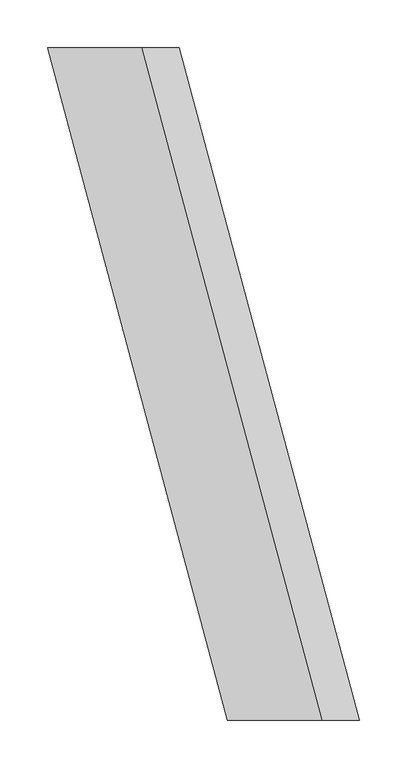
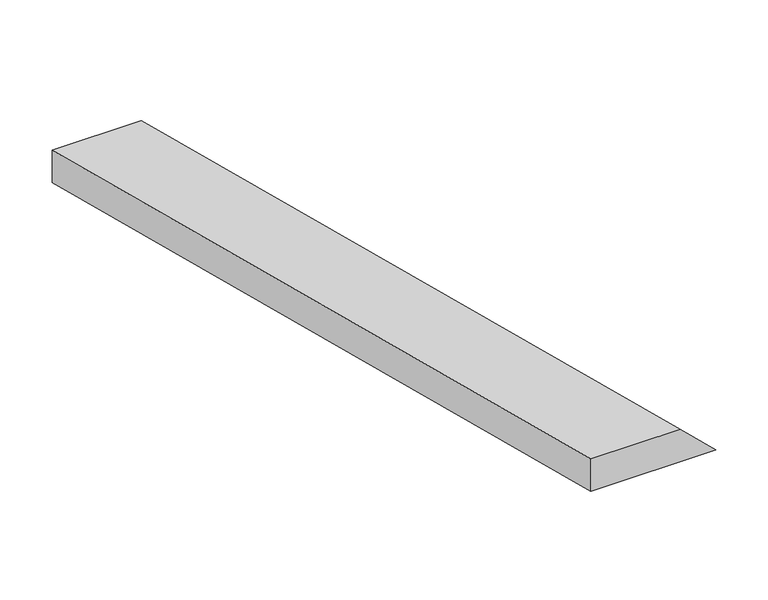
"""IFC4 building model written with IfcOpenShell, lengths in millimetres: proxy geometry, FOUNDATION^TABLE 5_60x180 RT END BASE-RIGHT END."""

import ifcopenshell
import ifcopenshell.guid

model = None  # the IFC model being written
_history = None  # IfcOwnerHistory: only IFC2X3 demands one
_inside = {}  # id of a spatial element -> (the spatial element, [elements in it])
_under = {}  # id of a project, library or spatial element -> (it, [spatial elements below it])
_declared = {}  # id of a project -> (the project, [libraries it declares])
_typed = {}  # id of a type object -> (the type object, [elements of that type])
_made_of = {}  # id of a material, layer set ... -> (it, [elements and type objects made of it])


def new_model(schema):
    """Start an empty IFC model of exactly this schema.

    Asked for "IFC4X3", IfcOpenShell would pick the latest addendum, in which some entities
    have other attributes; the version numbers below select the first issue.
    IFC2X3 requires an IfcOwnerHistory on every rooted entity: one is made here for all.
    """
    global model, _history
    if schema == "IFC4X3":
        model = ifcopenshell.file(schema_version=(4, 3, 0, 0))
    else:
        model = ifcopenshell.file(schema=schema)
    _inside.clear()
    _under.clear()
    _declared.clear()
    _typed.clear()
    _made_of.clear()
    _history = None
    if model.schema == "IFC2X3":
        org = make("IfcOrganization", Name="unknown")
        user = make(
            "IfcPersonAndOrganization",
            ThePerson=make("IfcPerson", FamilyName="unknown"),
            TheOrganization=org,
        )
        app = make(
            "IfcApplication",
            ApplicationDeveloper=org,
            Version="unknown",
            ApplicationFullName="unknown",
            ApplicationIdentifier="unknown",
        )
        _history = make(
            "IfcOwnerHistory",
            OwningUser=user,
            OwningApplication=app,
            ChangeAction="ADDED",
            CreationDate=0,
        )
    return model


def make(cls, **values):
    """One entity of the class cls with the attributes given. An attribute that is None is left unset."""
    return model.create_entity(
        cls, **{name: value for name, value in values.items() if value is not None}
    )


def rooted(cls, **values):
    """An entity with a GlobalId (a new one), such as an element, a storey or a relation."""
    return make(cls, GlobalId=ifcopenshell.guid.new(), OwnerHistory=_history, **values)


def si_unit(unit_type, name, prefix=None):
    """IfcSIUnit, for example si_unit("LENGTHUNIT", "METRE", prefix="MILLI")."""
    return make("IfcSIUnit", UnitType=unit_type, Prefix=prefix, Name=name)


def assignment(units):
    """IfcUnitAssignment: the units of a project."""
    return None if units is None else make("IfcUnitAssignment", Units=units)


def point(xyz):
    """IfcCartesianPoint."""
    return None if xyz is None else make("IfcCartesianPoint", Coordinates=xyz)


def direction(xyz):
    """IfcDirection."""
    return None if xyz is None else make("IfcDirection", DirectionRatios=xyz)


def frame(location, z_axis=None, x_axis=None):
    """IfcAxis2Placement3D, a coordinate frame: its origin and axes. An axis left out is left unset."""
    return make(
        "IfcAxis2Placement3D",
        Location=point(location),
        Axis=direction(z_axis),
        RefDirection=direction(x_axis),
    )


def origin():
    """The frame at (0, 0, 0) with its axes left unset."""
    return frame((0.0, 0.0, 0.0))


def place(relative_to, where):
    """IfcLocalPlacement: puts the frame where relative to a parent placement (None: the world)."""
    return make(
        "IfcLocalPlacement", PlacementRelTo=relative_to, RelativePlacement=where
    )


def context(
    kind, dimensions, precision=None, world=None, true_north=None, identifier=None
):
    """IfcGeometricRepresentationContext, for example the 3D "Model" context."""
    return make(
        "IfcGeometricRepresentationContext",
        ContextIdentifier=identifier,
        ContextType=kind,
        CoordinateSpaceDimension=dimensions,
        Precision=precision,
        WorldCoordinateSystem=world,
        TrueNorth=true_north,
    )


def project(units=None, contexts=None):
    """IfcProject with its units and contexts."""
    return rooted(
        "IfcProject",
        Name="project",
        RepresentationContexts=contexts,
        UnitsInContext=assignment(units),
    )


def spatial(cls, under=None, at=None, **own):
    """A site, building, storey or space (cls), placed at a placement, below another one or the project."""
    s = rooted(cls, ObjectPlacement=at, **own)
    if under is not None:
        _under.setdefault(under.id(), (under, []))[1].append(s)
    return s


def faces_of(points, faces, orient=None, outer=None):
    """IfcFace entities. A face is a list of loops; a loop is a list of indices into points, from 0.

    orient and outer hold one flag for each loop. By default every Orientation is true, the
    first loop of a face is its IfcFaceOuterBound and the others are IfcFaceBound.
    """
    made = []
    for i, loops in enumerate(faces):
        bounds = []
        for j, loop in enumerate(loops):
            is_outer = j == 0 if outer is None else outer[i][j]
            bounds.append(
                make(
                    "IfcFaceOuterBound" if is_outer else "IfcFaceBound",
                    Bound=make("IfcPolyLoop", Polygon=[points[k] for k in loop]),
                    Orientation=True if orient is None else orient[i][j],
                )
            )
        made.append(make("IfcFace", Bounds=bounds))
    return made


def faceted_brep(points, faces, orient=None, outer=None, voids=None):
    """IfcFacetedBrep: a solid bounded by flat faces; with voids (closed shells), ...WithVoids."""
    shared = [point(p) for p in points]
    hull = make("IfcClosedShell", CfsFaces=faces_of(shared, faces, orient, outer))
    if voids is None:
        return make("IfcFacetedBrep", Outer=hull)
    return make(
        "IfcFacetedBrepWithVoids",
        Outer=hull,
        Voids=[
            make(cls, CfsFaces=faces_of(shared, fs, o, b)) for cls, fs, o, b in voids
        ],
    )


def shape(context_of_items, identifier, shape_type, items):
    """IfcShapeRepresentation: the items that make up one representation, for example the "Body"."""
    return make(
        "IfcShapeRepresentation",
        ContextOfItems=context_of_items,
        RepresentationIdentifier=identifier,
        RepresentationType=shape_type,
        Items=items,
    )


def source(mapping_origin, context_of_items, identifier, shape_type, items):
    """IfcRepresentationMap: a shape defined once, which mapped items show again and again."""
    return make(
        "IfcRepresentationMap",
        MappingOrigin=mapping_origin,
        MappedRepresentation=shape(context_of_items, identifier, shape_type, items),
    )


def transform(
    local_origin,
    x_axis=None,
    y_axis=None,
    z_axis=None,
    scale=None,
    scale2=None,
    scale3=None,
    uniform=True,
):
    """IfcCartesianTransformationOperator3D, or its non-uniform kind. x_axis, y_axis, z_axis: its Axis1, 2, 3."""
    if uniform:
        return make(
            "IfcCartesianTransformationOperator3D",
            Axis1=direction(x_axis),
            Axis2=direction(y_axis),
            LocalOrigin=point(local_origin),
            Scale=scale,
            Axis3=direction(z_axis),
        )
    return make(
        "IfcCartesianTransformationOperator3DnonUniform",
        Axis1=direction(x_axis),
        Axis2=direction(y_axis),
        LocalOrigin=point(local_origin),
        Scale=scale,
        Axis3=direction(z_axis),
        Scale2=scale2,
        Scale3=scale3,
    )


def mapped(mapping_source, mapping_target):
    """IfcMappedItem: shows the shape of a source again, moved by a transform."""
    return make(
        "IfcMappedItem", MappingSource=mapping_source, MappingTarget=mapping_target
    )


def made_of(thing, what):
    """Note that an element or type object is made of a material, layer set ...; save() writes the relation."""
    if what is not None:
        _made_of.setdefault(what.id(), (what, []))[1].append(thing)
    return thing


def element(
    cls,
    number,
    at=None,
    inside=None,
    cuts=None,
    type_object=None,
    material=None,
    context=None,
    identifier="Body",
    shape_type=None,
    held_by="IfcProductDefinitionShape",
    body=None,
    shapes=None,
    **own,
):
    """One element of the class cls, such as IfcWall. Its Tag is "e" and its number.

    at: its placement. inside: the storey or other place that contains it. cuts: it is an
    opening in that element (IfcRelVoidsElement). A single representation is given by context,
    identifier, shape_type and body (its items); several are given by shapes. held_by: the class
    of the entity that holds the representations. save() writes the other relations.
    """
    e = rooted(cls, Tag="e%d" % number, ObjectPlacement=at, **own)
    if body is not None:
        shapes = [shape(context, identifier, shape_type, body)]
    if shapes is not None:
        e.Representation = make(held_by, Representations=shapes)
    if inside is not None:
        _inside.setdefault(inside.id(), (inside, []))[1].append(e)
    if cuts is not None:
        rooted(
            "IfcRelVoidsElement", RelatingBuildingElement=cuts, RelatedOpeningElement=e
        )
    if type_object is not None:
        _typed.setdefault(type_object.id(), (type_object, []))[1].append(e)
    return made_of(e, material)


def aggregate(whole, parts):
    """IfcRelAggregates: a whole, such as a stair, and the parts it consists of."""
    return rooted("IfcRelAggregates", RelatingObject=whole, RelatedObjects=parts)


def save(model, path):
    """Write the relations noted so far, then the file.

    IfcRelAggregates (storeys below a building ...), IfcRelContainedInSpatialStructure (elements
    in a storey), IfcRelDefinesByType, IfcRelAssociatesMaterial and IfcRelDeclares: one each for
    every whole, place, type object, material and project.
    """
    for whole, parts in _under.values():
        aggregate(whole, parts)
    for where, things in _inside.values():
        rooted(
            "IfcRelContainedInSpatialStructure",
            RelatedElements=things,
            RelatingStructure=where,
        )
    for kind, things in _typed.values():
        rooted("IfcRelDefinesByType", RelatedObjects=things, RelatingType=kind)
    for what, things in _made_of.values():
        rooted("IfcRelAssociatesMaterial", RelatedObjects=things, RelatingMaterial=what)
    for by, libraries in _declared.values():
        rooted("IfcRelDeclares", RelatingContext=by, RelatedDefinitions=libraries)
    model.write(path)


def generic_models_c6f29e5f(model_context):
    return source(origin(), model_context, "Body", "Brep", [
        faceted_brep([(3775.2699658, -704.85, -1066.8), (3676.6599096, -704.85, -1066.8), (3676.6599096, -704.85, -1104.9), (3814.7139883, -704.85, -1104.9), (3487.7959213, 0.0, -1066.8), (3487.7959213, 0.0, -1104.9), (3625.85, 0.0, -1104.9), (3586.4059775, 0.0, -1066.8)], [[[0, 1, 2, 3]], [[2, 1, 4, 5]], [[3, 2, 5, 6]], [[1, 0, 7, 4]], [[0, 3, 6, 7]], [[4, 7, 6, 5]]]),
    ])


if __name__ == "__main__":
    model = new_model("IFC4")
    model_context = context("Model", 3, world=origin())
    ifc_project = project(units=[si_unit("LENGTHUNIT", "METRE", prefix="MILLI")], contexts=[model_context])
    site = spatial("IfcSite", under=ifc_project)
    building = spatial("IfcBuilding", under=site)
    placement = place(None, origin())
    generic_models_shape = generic_models_c6f29e5f(model_context)
    element("IfcBuildingElementProxy", 1, Name="FOUNDATION^TABLE 5_60x180 RT END BASE-RIGHT END", ObjectType="FOUNDATION^TABLE 5_60x180 RT END BASE-RIGHT END", at=placement, inside=building, context=model_context, shape_type="MappedRepresentation", body=[
        mapped(generic_models_shape, transform((0.0, 0.0, 0.0), x_axis=(1.0, 0.0, 0.0), y_axis=(0.0, 1.0, 0.0), z_axis=(0.0, 0.0, 1.0))),
    ])
    save(model, "model.ifc")
